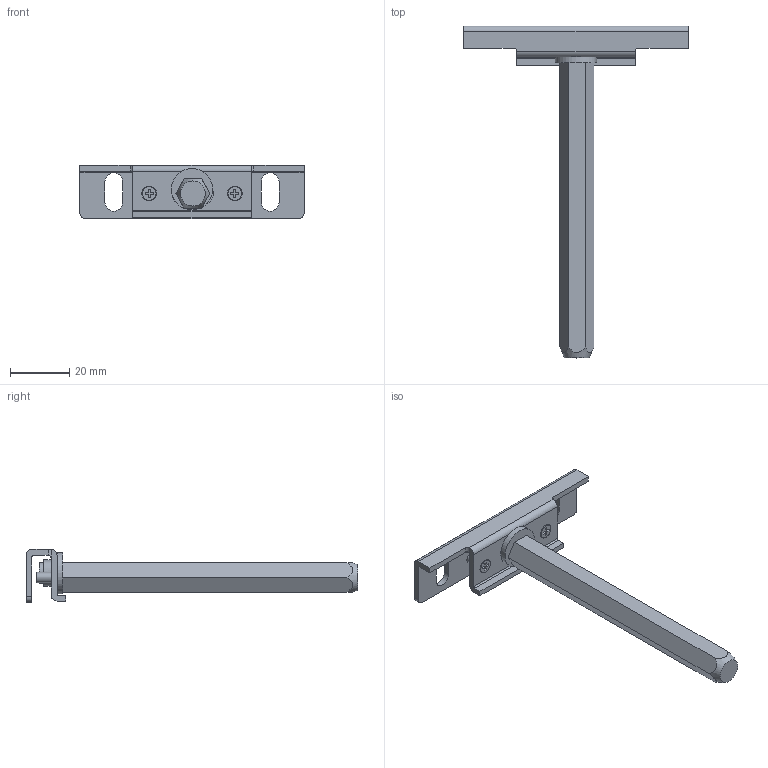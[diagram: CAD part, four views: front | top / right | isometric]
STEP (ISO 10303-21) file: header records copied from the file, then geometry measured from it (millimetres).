
FILE_DESCRIPTION(/* description */ (''),/* implementation_level */ '2;1');
FILE_NAME(/* name */ 'C:\Users\dmitruk\Documents\WORK\Навесы\Навес Smart.stp',/* time_stamp */ '2022-04-25T10:25:03+03:00',/* author */ ('dmitruk'),/* organization */ (''),/* preprocessor_version */ 'ST-DEVELOPER v16.5',/* originating_system */ 'Autodesk Inventor 2017',/* authorisation */ '');
FILE_SCHEMA (('AUTOMOTIVE_DESIGN { 1 0 10303 214 3 1 1 }'));
Length unit declared in the file: millimetre
Products named in the file (1): Навес Smart
Bounding box: 76 x 112.5 x 18 mm (x, y, z)
Volume: 13877.6 mm3; surface area: 9736.5 mm2
Topology: 5 solids, 5 shells, 91 faces, 230 edges, 150 vertices
Faces by surface type: plane 65, cylinder 23, cone 3
Full cylindrical faces by diameter (mm): 3.5 x2, 5 x2, 7.07 x1, 9 x1, 14 x1
Entity records: 2698 total; most frequent: CARTESIAN_POINT 500, DIRECTION 442, ORIENTED_EDGE 432, EDGE_CURVE 216, LINE 158, VECTOR 158, VERTEX_POINT 146, AXIS2_PLACEMENT_3D 142
